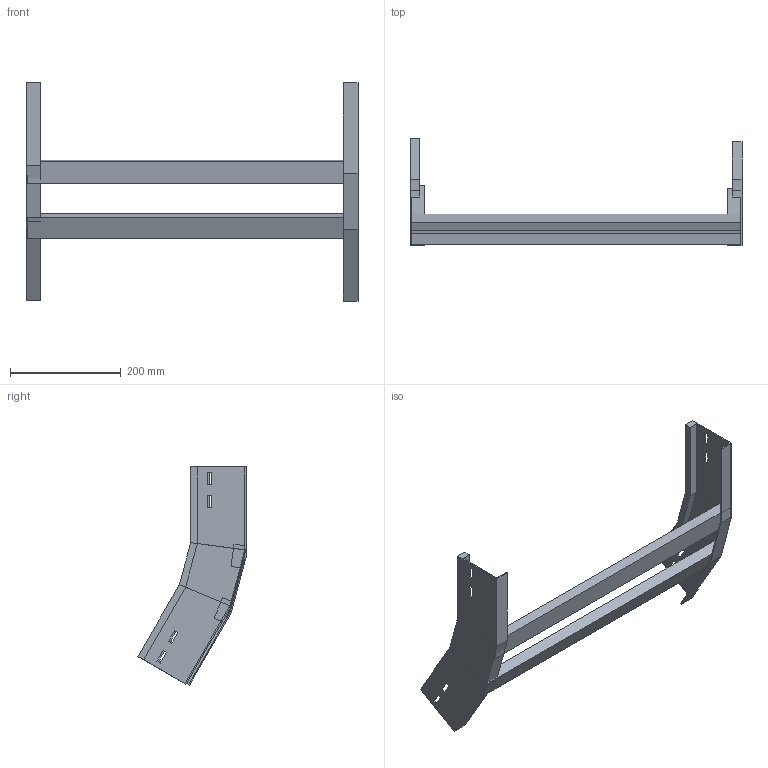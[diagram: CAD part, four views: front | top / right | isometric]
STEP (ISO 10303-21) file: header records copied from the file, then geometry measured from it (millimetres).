
FILE_DESCRIPTION (( 'STEP AP214' ), '1' );
FILE_NAME ('A2X32B3D600XX.step', '2025-03-20T09:57:09', ( '' ), ( '' ), 'SwSTEP 2.0', 'SolidWorks 2023', '' );
FILE_SCHEMA (( 'AUTOMOTIVE_DESIGN' ));
Length unit declared in the file: millimetre
Products named in the file (3): LONGH.SALITA_30°_H100_R300; TRAVERSINO_600; A2X32B3D600XX
Assembly tree (4 placements, depth 2):
  A2X32B3D600XX
    LONGH.SALITA_30°_H100_R300  x2
    TRAVERSINO_600  x2
Bounding box: 600 x 195.25 x 394.23 mm (x, y, z)
Volume: 1302886.2 mm3; surface area: 372779.2 mm2
Topology: 4 solids, 4 shells, 96 faces, 232 edges, 144 vertices
Faces by surface type: plane 96
Entity records: 1472 total; most frequent: CARTESIAN_POINT 243, ORIENTED_EDGE 232, DIRECTION 226, LINE 116, EDGE_CURVE 116, VECTOR 116, VERTEX_POINT 72, EDGE_LOOP 56
